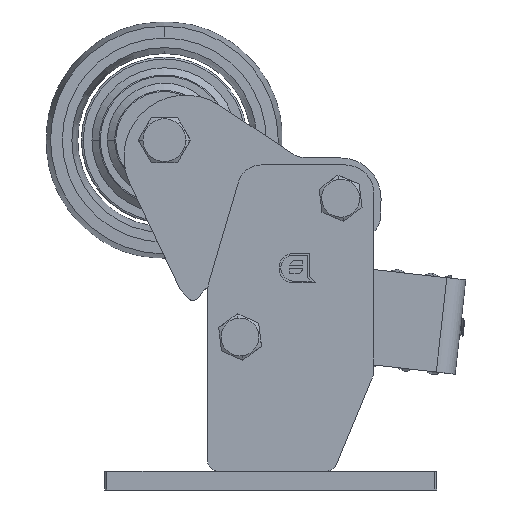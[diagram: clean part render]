
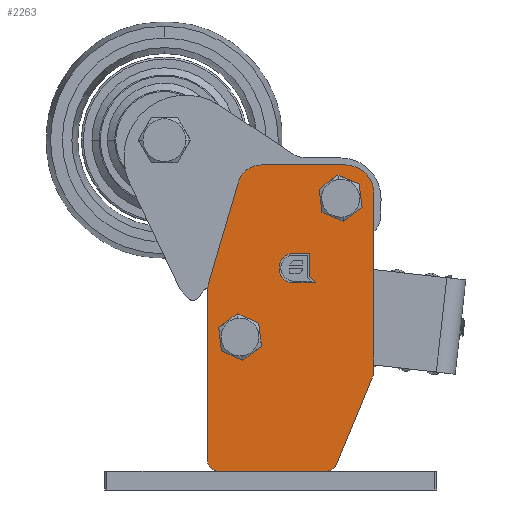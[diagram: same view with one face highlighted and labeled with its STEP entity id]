
A CAD part, left-side view. The second image highlights one B-rep face of the part: STEP entity #2263.
In plain terms, the highlighted planar face has unit normal (-1, 0, 0).
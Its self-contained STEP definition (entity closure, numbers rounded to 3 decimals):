
#1753=CARTESIAN_POINT('',(-40.,12.9,64.5));
#1754=DIRECTION('',(-1.,0.,0.));
#1755=DIRECTION('',(0.,-1.,0.));
#1756=AXIS2_PLACEMENT_3D('',#1753,#1754,#1755);
#1758=CARTESIAN_POINT('',(-40.,12.9,64.5));
#1759=DIRECTION('',(-1.,0.,0.));
#1760=DIRECTION('',(0.,1.,0.));
#1761=AXIS2_PLACEMENT_3D('',#1758,#1759,#1760);
#1763=CARTESIAN_POINT('',(-40.,-29.5,123.));
#1764=DIRECTION('',(-1.,0.,0.));
#1765=DIRECTION('',(0.,-1.,0.));
#1766=AXIS2_PLACEMENT_3D('',#1763,#1764,#1765);
#1768=CARTESIAN_POINT('',(-40.,-29.5,123.));
#1769=DIRECTION('',(-1.,0.,0.));
#1770=DIRECTION('',(0.,1.,0.));
#1771=AXIS2_PLACEMENT_3D('',#1768,#1769,#1770);
#1773=CARTESIAN_POINT('',(-40.,-23.828,12.));
#1774=DIRECTION('',(1.,0.,0.));
#1775=DIRECTION('',(0.,-0.924,-0.383));
#1776=AXIS2_PLACEMENT_3D('',#1773,#1774,#1775);
#1778=DIRECTION('',(0.,1.,0.));
#1779=VECTOR('',#1778,46.328);
#1780=CARTESIAN_POINT('',(-40.,-23.828,8.));
#1781=LINE('',#1780,#1779);
#1782=CARTESIAN_POINT('',(-40.,22.5,12.));
#1783=DIRECTION('',(-1.,0.,0.));
#1784=DIRECTION('',(0.,1.,0.));
#1785=AXIS2_PLACEMENT_3D('',#1782,#1783,#1784);
#1787=DIRECTION('',(0.,0.,-1.));
#1788=VECTOR('',#1787,72.56);
#1789=CARTESIAN_POINT('',(-40.,26.5,84.56));
#1790=LINE('',#1789,#1788);
#1791=CARTESIAN_POINT('',(-40.,16.5,84.56));
#1792=DIRECTION('',(-1.,0.,0.));
#1793=DIRECTION('',(0.,0.959,0.282));
#1794=AXIS2_PLACEMENT_3D('',#1791,#1792,#1793);
#1796=DIRECTION('',(0.,0.282,-0.959));
#1797=VECTOR('',#1796,44.238);
#1798=CARTESIAN_POINT('',(-40.,13.611,129.822));
#1799=LINE('',#1798,#1797);
#1800=CARTESIAN_POINT('',(-40.,4.018,127.));
#1801=DIRECTION('',(-1.,0.,0.));
#1802=DIRECTION('',(0.,0.,1.));
#1803=AXIS2_PLACEMENT_3D('',#1800,#1801,#1802);
#1805=DIRECTION('',(0.,1.,0.));
#1806=VECTOR('',#1805,35.518);
#1807=CARTESIAN_POINT('',(-40.,-31.5,137.));
#1808=LINE('',#1807,#1806);
#1809=CARTESIAN_POINT('',(-40.,-31.5,125.));
#1810=DIRECTION('',(-1.,0.,0.));
#1811=DIRECTION('',(0.,-1.,0.));
#1812=AXIS2_PLACEMENT_3D('',#1809,#1810,#1811);
#1814=DIRECTION('',(0.,0.,1.));
#1815=VECTOR('',#1814,74.009);
#1816=CARTESIAN_POINT('',(-40.,-43.5,50.991));
#1817=LINE('',#1816,#1815);
#1818=CARTESIAN_POINT('',(-40.,-33.5,50.991));
#1819=DIRECTION('',(-1.,0.,0.));
#1820=DIRECTION('',(0.,-0.924,-0.383));
#1821=AXIS2_PLACEMENT_3D('',#1818,#1819,#1820);
#1823=DIRECTION('',(0.,-0.383,0.924));
#1824=VECTOR('',#1823,39.722);
#1825=CARTESIAN_POINT('',(-40.,-27.523,10.468));
#1826=LINE('',#1825,#1824);
#1844=DIRECTION('',(0.,0.67,0.743));
#1845=VECTOR('',#1844,3.474);
#1846=CARTESIAN_POINT('',(-40.,-18.827,87.3));
#1847=LINE('',#1846,#1845);
#1848=DIRECTION('',(0.,0.,1.));
#1849=VECTOR('',#1848,9.92);
#1850=CARTESIAN_POINT('',(-40.,-16.5,89.88));
#1851=LINE('',#1850,#1849);
#1852=DIRECTION('',(0.,1.,0.));
#1853=VECTOR('',#1852,7.18);
#1854=CARTESIAN_POINT('',(-40.,-16.5,99.8));
#1855=LINE('',#1854,#1853);
#1856=CARTESIAN_POINT('',(-40.,-9.82,93.55));
#1857=DIRECTION('',(-1.,0.,0.));
#1858=DIRECTION('',(0.,0.08,0.997));
#1859=AXIS2_PLACEMENT_3D('',#1856,#1857,#1858);
#1861=DIRECTION('',(0.,-1.,0.));
#1862=VECTOR('',#1861,9.507);
#1863=CARTESIAN_POINT('',(-40.,-9.32,87.3));
#1864=LINE('',#1863,#1862);
#2029=CARTESIAN_POINT('',(-40.,17.9,64.5));
#2030=CARTESIAN_POINT('',(-40.,7.9,64.5));
#2031=VERTEX_POINT('',#2029);
#2032=VERTEX_POINT('',#2030);
#2033=CARTESIAN_POINT('',(-40.,-24.5,123.));
#2034=CARTESIAN_POINT('',(-40.,-34.5,123.));
#2035=VERTEX_POINT('',#2033);
#2036=VERTEX_POINT('',#2034);
#2041=CARTESIAN_POINT('',(-40.,-23.828,8.));
#2042=CARTESIAN_POINT('',(-40.,-27.523,10.468));
#2043=VERTEX_POINT('',#2041);
#2044=VERTEX_POINT('',#2042);
#2049=CARTESIAN_POINT('',(-40.,26.5,12.));
#2050=VERTEX_POINT('',#2049);
#2051=CARTESIAN_POINT('',(-40.,22.5,8.));
#2052=VERTEX_POINT('',#2051);
#2057=CARTESIAN_POINT('',(-40.,-42.737,47.161));
#2058=VERTEX_POINT('',#2057);
#2059=CARTESIAN_POINT('',(-40.,-43.5,50.991));
#2060=VERTEX_POINT('',#2059);
#2065=CARTESIAN_POINT('',(-40.,26.094,87.382));
#2066=VERTEX_POINT('',#2065);
#2067=CARTESIAN_POINT('',(-40.,26.5,84.56));
#2068=VERTEX_POINT('',#2067);
#2073=CARTESIAN_POINT('',(-40.,4.018,137.));
#2074=VERTEX_POINT('',#2073);
#2075=CARTESIAN_POINT('',(-40.,13.611,129.822));
#2076=VERTEX_POINT('',#2075);
#2081=CARTESIAN_POINT('',(-40.,-43.5,125.));
#2082=VERTEX_POINT('',#2081);
#2083=CARTESIAN_POINT('',(-40.,-31.5,137.));
#2084=VERTEX_POINT('',#2083);
#2129=CARTESIAN_POINT('',(-40.,-18.827,87.3));
#2130=CARTESIAN_POINT('',(-40.,-16.5,89.88));
#2131=VERTEX_POINT('',#2129);
#2132=VERTEX_POINT('',#2130);
#2133=CARTESIAN_POINT('',(-40.,-16.5,99.8));
#2134=VERTEX_POINT('',#2133);
#2135=CARTESIAN_POINT('',(-40.,-9.32,99.8));
#2136=VERTEX_POINT('',#2135);
#2137=CARTESIAN_POINT('',(-40.,-9.32,87.3));
#2138=VERTEX_POINT('',#2137);
#2208=CARTESIAN_POINT('',(-40.,-29.5,123.));
#2209=DIRECTION('',(-1.,0.,0.));
#2210=DIRECTION('',(0.,1.,0.));
#2211=AXIS2_PLACEMENT_3D('',#2208,#2209,#2210);
#2212=PLANE('',#2211);
#2214=ORIENTED_EDGE('',*,*,#2213,.T.);
#2216=ORIENTED_EDGE('',*,*,#2215,.T.);
#2218=ORIENTED_EDGE('',*,*,#2217,.F.);
#2220=ORIENTED_EDGE('',*,*,#2219,.F.);
#2222=ORIENTED_EDGE('',*,*,#2221,.F.);
#2224=ORIENTED_EDGE('',*,*,#2223,.F.);
#2226=ORIENTED_EDGE('',*,*,#2225,.F.);
#2228=ORIENTED_EDGE('',*,*,#2227,.F.);
#2230=ORIENTED_EDGE('',*,*,#2229,.F.);
#2232=ORIENTED_EDGE('',*,*,#2231,.F.);
#2234=ORIENTED_EDGE('',*,*,#2233,.F.);
#2236=ORIENTED_EDGE('',*,*,#2235,.F.);
#2237=EDGE_LOOP('',(#2214,#2216,#2218,#2220,#2222,#2224,#2226,#2228,#2230,#2232,
#2234,#2236));
#2238=FACE_OUTER_BOUND('',#2237,.F.);
#2240=ORIENTED_EDGE('',*,*,#2239,.T.);
#2242=ORIENTED_EDGE('',*,*,#2241,.T.);
#2243=EDGE_LOOP('',(#2240,#2242));
#2244=FACE_BOUND('',#2243,.F.);
#2246=ORIENTED_EDGE('',*,*,#2245,.T.);
#2248=ORIENTED_EDGE('',*,*,#2247,.T.);
#2249=EDGE_LOOP('',(#2246,#2248));
#2250=FACE_BOUND('',#2249,.F.);
#2252=ORIENTED_EDGE('',*,*,#2251,.T.);
#2254=ORIENTED_EDGE('',*,*,#2253,.T.);
#2256=ORIENTED_EDGE('',*,*,#2255,.T.);
#2258=ORIENTED_EDGE('',*,*,#2257,.T.);
#2260=ORIENTED_EDGE('',*,*,#2259,.T.);
#2261=EDGE_LOOP('',(#2252,#2254,#2256,#2258,#2260));
#2262=FACE_BOUND('',#2261,.F.);
#2263=ADVANCED_FACE('',(#2238,#2244,#2250,#2262),#2212,.T.);
#1757=CIRCLE('',#1756,5.);
#1762=CIRCLE('',#1761,5.);
#1767=CIRCLE('',#1766,5.);
#1772=CIRCLE('',#1771,5.);
#1777=CIRCLE('',#1776,4.);
#1786=CIRCLE('',#1785,4.);
#1795=CIRCLE('',#1794,10.);
#1804=CIRCLE('',#1803,10.);
#1813=CIRCLE('',#1812,12.);
#1822=CIRCLE('',#1821,10.);
#1860=CIRCLE('',#1859,6.27);
#2213=EDGE_CURVE('',#2044,#2043,#1777,.T.);
#2215=EDGE_CURVE('',#2043,#2052,#1781,.T.);
#2217=EDGE_CURVE('',#2050,#2052,#1786,.T.);
#2219=EDGE_CURVE('',#2068,#2050,#1790,.T.);
#2221=EDGE_CURVE('',#2066,#2068,#1795,.T.);
#2223=EDGE_CURVE('',#2076,#2066,#1799,.T.);
#2225=EDGE_CURVE('',#2074,#2076,#1804,.T.);
#2227=EDGE_CURVE('',#2084,#2074,#1808,.T.);
#2229=EDGE_CURVE('',#2082,#2084,#1813,.T.);
#2231=EDGE_CURVE('',#2060,#2082,#1817,.T.);
#2233=EDGE_CURVE('',#2058,#2060,#1822,.T.);
#2235=EDGE_CURVE('',#2044,#2058,#1826,.T.);
#2239=EDGE_CURVE('',#2032,#2031,#1757,.T.);
#2241=EDGE_CURVE('',#2031,#2032,#1762,.T.);
#2245=EDGE_CURVE('',#2036,#2035,#1767,.T.);
#2247=EDGE_CURVE('',#2035,#2036,#1772,.T.);
#2251=EDGE_CURVE('',#2131,#2132,#1847,.T.);
#2253=EDGE_CURVE('',#2132,#2134,#1851,.T.);
#2255=EDGE_CURVE('',#2134,#2136,#1855,.T.);
#2257=EDGE_CURVE('',#2136,#2138,#1860,.T.);
#2259=EDGE_CURVE('',#2138,#2131,#1864,.T.);
